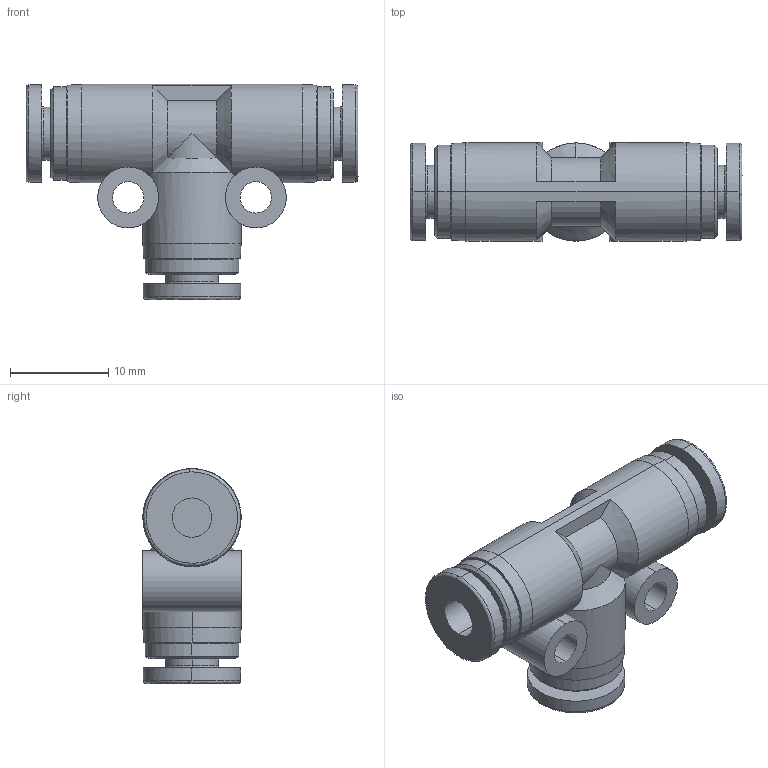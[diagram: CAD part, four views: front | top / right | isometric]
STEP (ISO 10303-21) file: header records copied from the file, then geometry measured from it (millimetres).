
FILE_DESCRIPTION (( 'STEP AP214' ), '1' );
FILE_NAME ('APE4.STEP', '2019-11-18T02:04:34', ( '微软用户' ), ( '微软中国' ), 'SwSTEP 2.0', 'SolidWorks 2016', '' );
FILE_SCHEMA (( 'AUTOMOTIVE_DESIGN' ));
Length unit declared in the file: millimetre
Products named in the file (1): APE4
Bounding box: 33.8 x 10 x 21.9 mm (x, y, z)
Volume: 3039.6 mm3; surface area: 2873.1 mm2
Topology: 1 solids, 1 shells, 104 faces, 246 edges, 156 vertices
Faces by surface type: cylinder 40, cone 31, plane 21, bspline 12
Entity records: 3935 total; most frequent: CARTESIAN_POINT 1536, DIRECTION 512, ORIENTED_EDGE 492, EDGE_CURVE 246, AXIS2_PLACEMENT_3D 225, VERTEX_POINT 156, CIRCLE 132, EDGE_LOOP 120
